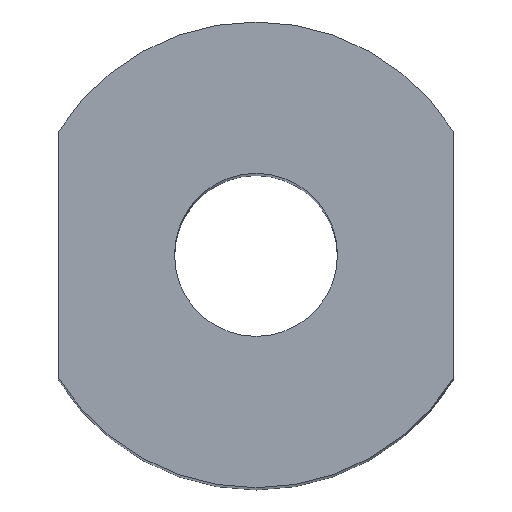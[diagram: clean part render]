
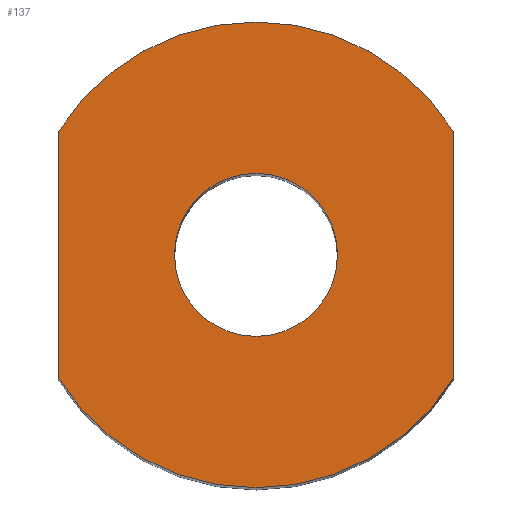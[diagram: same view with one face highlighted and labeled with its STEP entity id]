
A CAD part, top view. The second image highlights one B-rep face of the part: STEP entity #137.
In plain terms, the highlighted planar face has unit normal (0, 0, 1).
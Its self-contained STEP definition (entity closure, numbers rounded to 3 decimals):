
#4 = CIRCLE ( 'NONE', #149, 10. ) ;
#11 = DIRECTION ( 'NONE',  ( 0., 0., -1. ) ) ;
#26 = ORIENTED_EDGE ( 'NONE', *, *, #173, .T. ) ;
#40 = DIRECTION ( 'NONE',  ( 0., 0., 1. ) ) ;
#62 = AXIS2_PLACEMENT_3D ( 'NONE', #172, #347, #114 ) ;
#63 = VERTEX_POINT ( 'NONE', #153 ) ;
#65 = AXIS2_PLACEMENT_3D ( 'NONE', #178, #207, #175 ) ;
#77 = DIRECTION ( 'NONE',  ( 1., 0., 0. ) ) ;
#79 = EDGE_LOOP ( 'NONE', ( #128, #299 ) ) ;
#89 = VERTEX_POINT ( 'NONE', #189 ) ;
#100 = VERTEX_POINT ( 'NONE', #150 ) ;
#101 = CIRCLE ( 'NONE', #62, 3.5 ) ;
#109 = ORIENTED_EDGE ( 'NONE', *, *, #385, .F. ) ;
#113 = EDGE_CURVE ( 'NONE', #205, #358, #4, .T. ) ;
#114 = DIRECTION ( 'NONE',  ( 1., 0., 0. ) ) ;
#117 = EDGE_CURVE ( 'NONE', #100, #89, #122, .T. ) ;
#120 = CARTESIAN_POINT ( 'NONE',  ( 749.2, 391.168, 100. ) ) ;
#122 = CIRCLE ( 'NONE', #305, 3.5 ) ;
#128 = ORIENTED_EDGE ( 'NONE', *, *, #117, .T. ) ;
#137 = ADVANCED_FACE ( 'NONE', ( #356, #349 ), #367, .T. ) ;
#146 = LINE ( 'NONE', #246, #248 ) ;
#147 = EDGE_CURVE ( 'NONE', #358, #287, #146, .T. ) ;
#149 = AXIS2_PLACEMENT_3D ( 'NONE', #155, #366, #161 ) ;
#150 = CARTESIAN_POINT ( 'NONE',  ( 761.2, 385.9, 100. ) ) ;
#153 = CARTESIAN_POINT ( 'NONE',  ( 766.2, 380.632, 100. ) ) ;
#155 = CARTESIAN_POINT ( 'NONE',  ( 757.7, 385.9, 100. ) ) ;
#161 = DIRECTION ( 'NONE',  ( 1., 0., 0. ) ) ;
#162 = DIRECTION ( 'NONE',  ( 1., 0., 0. ) ) ;
#172 = CARTESIAN_POINT ( 'NONE',  ( 757.7, 385.9, 100. ) ) ;
#173 = EDGE_CURVE ( 'NONE', #63, #205, #186, .T. ) ;
#175 = DIRECTION ( 'NONE',  ( 1., 0., 0. ) ) ;
#178 = CARTESIAN_POINT ( 'NONE',  ( 757.7, 385.9, 100. ) ) ;
#186 = LINE ( 'NONE', #277, #307 ) ;
#189 = CARTESIAN_POINT ( 'NONE',  ( 754.2, 385.9, 100. ) ) ;
#190 = CARTESIAN_POINT ( 'NONE',  ( 767.7, 385.9, 100. ) ) ;
#205 = VERTEX_POINT ( 'NONE', #337 ) ;
#207 = DIRECTION ( 'NONE',  ( 0., 0., -1. ) ) ;
#218 = DIRECTION ( 'NONE',  ( 0., -1., 0. ) ) ;
#225 = CARTESIAN_POINT ( 'NONE',  ( 757.7, 385.9, 100. ) ) ;
#246 = CARTESIAN_POINT ( 'NONE',  ( 749.2, 385.9, 100. ) ) ;
#248 = VECTOR ( 'NONE', #218, 1000. ) ;
#257 = EDGE_CURVE ( 'NONE', #89, #100, #101, .T. ) ;
#277 = CARTESIAN_POINT ( 'NONE',  ( 766.2, 385.9, 100. ) ) ;
#281 = ORIENTED_EDGE ( 'NONE', *, *, #147, .T. ) ;
#287 = VERTEX_POINT ( 'NONE', #348 ) ;
#292 = CIRCLE ( 'NONE', #65, 10. ) ;
#299 = ORIENTED_EDGE ( 'NONE', *, *, #257, .T. ) ;
#302 = DIRECTION ( 'NONE',  ( 0., 1., 0. ) ) ;
#305 = AXIS2_PLACEMENT_3D ( 'NONE', #225, #11, #77 ) ;
#307 = VECTOR ( 'NONE', #302, 1000. ) ;
#337 = CARTESIAN_POINT ( 'NONE',  ( 766.2, 391.168, 100. ) ) ;
#345 = AXIS2_PLACEMENT_3D ( 'NONE', #190, #40, #162 ) ;
#347 = DIRECTION ( 'NONE',  ( 0., 0., -1. ) ) ;
#348 = CARTESIAN_POINT ( 'NONE',  ( 749.2, 380.632, 100. ) ) ;
#349 = FACE_BOUND ( 'NONE', #79, .T. ) ;
#356 = FACE_OUTER_BOUND ( 'NONE', #364, .T. ) ;
#358 = VERTEX_POINT ( 'NONE', #120 ) ;
#364 = EDGE_LOOP ( 'NONE', ( #26, #382, #281, #109 ) ) ;
#366 = DIRECTION ( 'NONE',  ( 0., 0., 1. ) ) ;
#367 = PLANE ( 'NONE',  #345 ) ;
#382 = ORIENTED_EDGE ( 'NONE', *, *, #113, .T. ) ;
#385 = EDGE_CURVE ( 'NONE', #63, #287, #292, .T. ) ;
